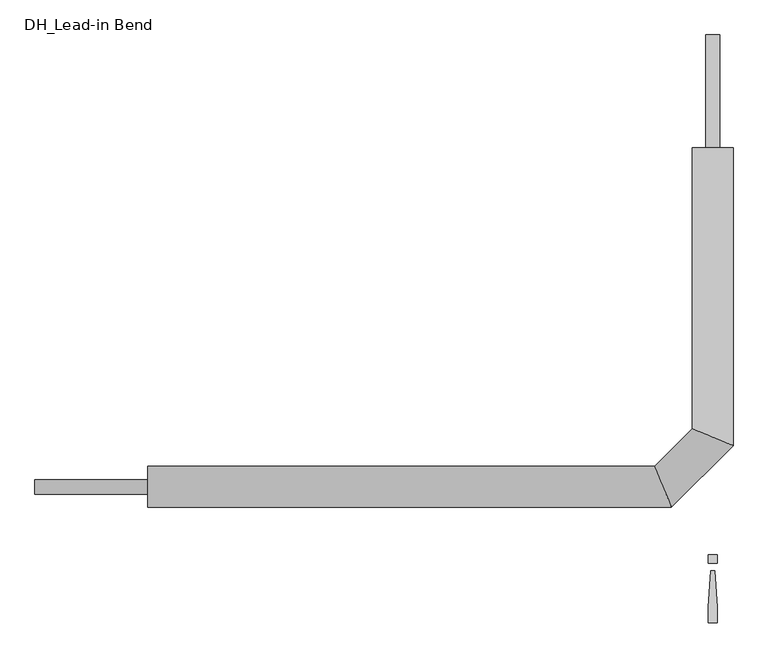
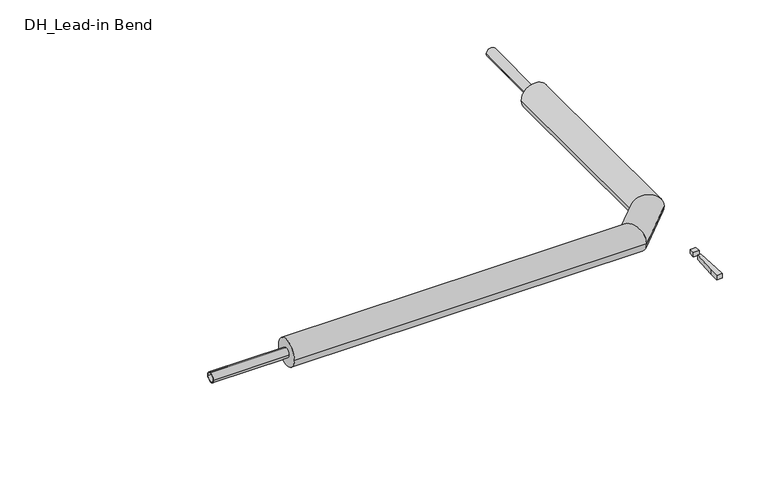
"""IFC4 building model written with IfcOpenShell, lengths in millimetres: pipe fitting geometry, DH_Lead-in Bend : INSULPEX UNO + 11 Heating."""

import ifcopenshell
import ifcopenshell.guid

model = None  # the IFC model being written
_history = None  # IfcOwnerHistory: only IFC2X3 demands one
_inside = {}  # id of a spatial element -> (the spatial element, [elements in it])
_under = {}  # id of a project, library or spatial element -> (it, [spatial elements below it])
_declared = {}  # id of a project -> (the project, [libraries it declares])
_typed = {}  # id of a type object -> (the type object, [elements of that type])
_made_of = {}  # id of a material, layer set ... -> (it, [elements and type objects made of it])


def new_model(schema):
    """Start an empty IFC model of exactly this schema.

    Asked for "IFC4X3", IfcOpenShell would pick the latest addendum, in which some entities
    have other attributes; the version numbers below select the first issue.
    IFC2X3 requires an IfcOwnerHistory on every rooted entity: one is made here for all.
    """
    global model, _history
    if schema == "IFC4X3":
        model = ifcopenshell.file(schema_version=(4, 3, 0, 0))
    else:
        model = ifcopenshell.file(schema=schema)
    _inside.clear()
    _under.clear()
    _declared.clear()
    _typed.clear()
    _made_of.clear()
    _history = None
    if model.schema == "IFC2X3":
        org = make("IfcOrganization", Name="unknown")
        user = make(
            "IfcPersonAndOrganization",
            ThePerson=make("IfcPerson", FamilyName="unknown"),
            TheOrganization=org,
        )
        app = make(
            "IfcApplication",
            ApplicationDeveloper=org,
            Version="unknown",
            ApplicationFullName="unknown",
            ApplicationIdentifier="unknown",
        )
        _history = make(
            "IfcOwnerHistory",
            OwningUser=user,
            OwningApplication=app,
            ChangeAction="ADDED",
            CreationDate=0,
        )
    return model


def make(cls, **values):
    """One entity of the class cls with the attributes given. An attribute that is None is left unset."""
    return model.create_entity(
        cls, **{name: value for name, value in values.items() if value is not None}
    )


def rooted(cls, **values):
    """An entity with a GlobalId (a new one), such as an element, a storey or a relation."""
    return make(cls, GlobalId=ifcopenshell.guid.new(), OwnerHistory=_history, **values)


def si_unit(unit_type, name, prefix=None):
    """IfcSIUnit, for example si_unit("LENGTHUNIT", "METRE", prefix="MILLI")."""
    return make("IfcSIUnit", UnitType=unit_type, Prefix=prefix, Name=name)


def assignment(units):
    """IfcUnitAssignment: the units of a project."""
    return None if units is None else make("IfcUnitAssignment", Units=units)


def point(xyz):
    """IfcCartesianPoint."""
    return None if xyz is None else make("IfcCartesianPoint", Coordinates=xyz)


def direction(xyz):
    """IfcDirection."""
    return None if xyz is None else make("IfcDirection", DirectionRatios=xyz)


def frame(location, z_axis=None, x_axis=None):
    """IfcAxis2Placement3D, a coordinate frame: its origin and axes. An axis left out is left unset."""
    return make(
        "IfcAxis2Placement3D",
        Location=point(location),
        Axis=direction(z_axis),
        RefDirection=direction(x_axis),
    )


def frame_2d(location, x_axis=None):
    """IfcAxis2Placement2D, a coordinate frame in the plane: its origin and x axis."""
    return make(
        "IfcAxis2Placement2D", Location=point(location), RefDirection=direction(x_axis)
    )


def origin():
    """The frame at (0, 0, 0) with its axes left unset."""
    return frame((0.0, 0.0, 0.0))


def origin_with_axes():
    """The frame at (0, 0, 0) with the z axis (0, 0, 1) and the x axis (1, 0, 0) written out."""
    return frame((0.0, 0.0, 0.0), z_axis=(0.0, 0.0, 1.0), x_axis=(1.0, 0.0, 0.0))


def origin_2d():
    """The frame at (0, 0) in the plane with its x axis left unset."""
    return frame_2d((0.0, 0.0))


def place(relative_to, where):
    """IfcLocalPlacement: puts the frame where relative to a parent placement (None: the world)."""
    return make(
        "IfcLocalPlacement", PlacementRelTo=relative_to, RelativePlacement=where
    )


def context(
    kind, dimensions, precision=None, world=None, true_north=None, identifier=None
):
    """IfcGeometricRepresentationContext, for example the 3D "Model" context."""
    return make(
        "IfcGeometricRepresentationContext",
        ContextIdentifier=identifier,
        ContextType=kind,
        CoordinateSpaceDimension=dimensions,
        Precision=precision,
        WorldCoordinateSystem=world,
        TrueNorth=true_north,
    )


def project(units=None, contexts=None):
    """IfcProject with its units and contexts."""
    return rooted(
        "IfcProject",
        Name="project",
        RepresentationContexts=contexts,
        UnitsInContext=assignment(units),
    )


def spatial(cls, under=None, at=None, **own):
    """A site, building, storey or space (cls), placed at a placement, below another one or the project."""
    s = rooted(cls, ObjectPlacement=at, **own)
    if under is not None:
        _under.setdefault(under.id(), (under, []))[1].append(s)
    return s


def polyline(points):
    """IfcPolyline through the points."""
    return make("IfcPolyline", Points=[point(p) for p in points])


def circle_curve(where, radius):
    """IfcCircle in the frame where."""
    return make("IfcCircle", Position=where, Radius=radius)


def ellipse_curve(where, semi_axis1, semi_axis2):
    """IfcEllipse in the frame where."""
    return make(
        "IfcEllipse", Position=where, SemiAxis1=semi_axis1, SemiAxis2=semi_axis2
    )


def trimmed(basis, trim1, trim2, sense, master):
    """IfcTrimmedCurve: the piece of a basis curve between two trims."""
    return make(
        "IfcTrimmedCurve",
        BasisCurve=basis,
        Trim1=trim1,
        Trim2=trim2,
        SenseAgreement=sense,
        MasterRepresentation=master,
    )


def segment(curve, same_sense, transition):
    """IfcCompositeCurveSegment."""
    return make(
        "IfcCompositeCurveSegment",
        Transition=transition,
        SameSense=same_sense,
        ParentCurve=curve,
    )


def composite_curve(segments, self_intersect=None):
    """IfcCompositeCurve: segments joined end to end."""
    return make("IfcCompositeCurve", Segments=segments, SelfIntersect=self_intersect)


def outline(outer, holes=None, kind="AREA"):
    """IfcArbitraryClosedProfileDef: a profile drawn as a closed curve; with holes, ...WithVoids."""
    if holes is None:
        return make("IfcArbitraryClosedProfileDef", ProfileType=kind, OuterCurve=outer)
    return make(
        "IfcArbitraryProfileDefWithVoids",
        ProfileType=kind,
        OuterCurve=outer,
        InnerCurves=holes,
    )


def extrude(swept, where, along, depth):
    """IfcExtrudedAreaSolid: the profile swept, set in the frame where, extruded along a direction by depth."""
    return make(
        "IfcExtrudedAreaSolid",
        SweptArea=swept,
        Position=where,
        ExtrudedDirection=direction(along),
        Depth=depth,
    )


def shape(context_of_items, identifier, shape_type, items):
    """IfcShapeRepresentation: the items that make up one representation, for example the "Body"."""
    return make(
        "IfcShapeRepresentation",
        ContextOfItems=context_of_items,
        RepresentationIdentifier=identifier,
        RepresentationType=shape_type,
        Items=items,
    )


def source(mapping_origin, context_of_items, identifier, shape_type, items):
    """IfcRepresentationMap: a shape defined once, which mapped items show again and again."""
    return make(
        "IfcRepresentationMap",
        MappingOrigin=mapping_origin,
        MappedRepresentation=shape(context_of_items, identifier, shape_type, items),
    )


def transform(
    local_origin,
    x_axis=None,
    y_axis=None,
    z_axis=None,
    scale=None,
    scale2=None,
    scale3=None,
    uniform=True,
):
    """IfcCartesianTransformationOperator3D, or its non-uniform kind. x_axis, y_axis, z_axis: its Axis1, 2, 3."""
    if uniform:
        return make(
            "IfcCartesianTransformationOperator3D",
            Axis1=direction(x_axis),
            Axis2=direction(y_axis),
            LocalOrigin=point(local_origin),
            Scale=scale,
            Axis3=direction(z_axis),
        )
    return make(
        "IfcCartesianTransformationOperator3DnonUniform",
        Axis1=direction(x_axis),
        Axis2=direction(y_axis),
        LocalOrigin=point(local_origin),
        Scale=scale,
        Axis3=direction(z_axis),
        Scale2=scale2,
        Scale3=scale3,
    )


def mapped(mapping_source, mapping_target):
    """IfcMappedItem: shows the shape of a source again, moved by a transform."""
    return make(
        "IfcMappedItem", MappingSource=mapping_source, MappingTarget=mapping_target
    )


def made_of(thing, what):
    """Note that an element or type object is made of a material, layer set ...; save() writes the relation."""
    if what is not None:
        _made_of.setdefault(what.id(), (what, []))[1].append(thing)
    return thing


def element(
    cls,
    number,
    at=None,
    inside=None,
    cuts=None,
    type_object=None,
    material=None,
    context=None,
    identifier="Body",
    shape_type=None,
    held_by="IfcProductDefinitionShape",
    body=None,
    shapes=None,
    **own,
):
    """One element of the class cls, such as IfcWall. Its Tag is "e" and its number.

    at: its placement. inside: the storey or other place that contains it. cuts: it is an
    opening in that element (IfcRelVoidsElement). A single representation is given by context,
    identifier, shape_type and body (its items); several are given by shapes. held_by: the class
    of the entity that holds the representations. save() writes the other relations.
    """
    e = rooted(cls, Tag="e%d" % number, ObjectPlacement=at, **own)
    if body is not None:
        shapes = [shape(context, identifier, shape_type, body)]
    if shapes is not None:
        e.Representation = make(held_by, Representations=shapes)
    if inside is not None:
        _inside.setdefault(inside.id(), (inside, []))[1].append(e)
    if cuts is not None:
        rooted(
            "IfcRelVoidsElement", RelatingBuildingElement=cuts, RelatedOpeningElement=e
        )
    if type_object is not None:
        _typed.setdefault(type_object.id(), (type_object, []))[1].append(e)
    return made_of(e, material)


def aggregate(whole, parts):
    """IfcRelAggregates: a whole, such as a stair, and the parts it consists of."""
    return rooted("IfcRelAggregates", RelatingObject=whole, RelatedObjects=parts)


def save(model, path):
    """Write the relations noted so far, then the file.

    IfcRelAggregates (storeys below a building ...), IfcRelContainedInSpatialStructure (elements
    in a storey), IfcRelDefinesByType, IfcRelAssociatesMaterial and IfcRelDeclares: one each for
    every whole, place, type object, material and project.
    """
    for whole, parts in _under.values():
        aggregate(whole, parts)
    for where, things in _inside.values():
        rooted(
            "IfcRelContainedInSpatialStructure",
            RelatedElements=things,
            RelatingStructure=where,
        )
    for kind, things in _typed.values():
        rooted("IfcRelDefinesByType", RelatedObjects=things, RelatingType=kind)
    for what, things in _made_of.values():
        rooted("IfcRelAssociatesMaterial", RelatedObjects=things, RelatingMaterial=what)
    for by, libraries in _declared.values():
        rooted("IfcRelDeclares", RelatingContext=by, RelatedDefinitions=libraries)
    model.write(path)


def plane_surface(at):
    """IfcPlane: the flat surface through the origin of the frame at, square to its z axis."""
    return make("IfcPlane", Position=at)


def cylinder_surface(at, radius):
    """IfcCylindricalSurface: all points at the distance radius from the z axis of the frame at."""
    return make("IfcCylindricalSurface", Position=at, Radius=radius)


def advanced_brep(points, edges, surfaces, faces):
    """IfcAdvancedBrep: a solid bounded by faces that lie on surfaces and meet in shared edges.

    An edge is (start, end): straight between two places in points (the first is 0);
    or (start, end, curve); or (start, end, curve, False) where it runs against its curve.
    A face is (place in surfaces, loops), or (place, loops, False) where it looks against
    its surface's normal. A loop lists edges by number (the first is 1), with a minus sign
    where the edge is run from its end to its start. The first loop is the outer one.
    """
    corners = [point(p) for p in points]
    vertices = [make("IfcVertexPoint", VertexGeometry=c) for c in corners]
    made = []
    for start, end, *more in edges:
        made.append(
            make(
                "IfcEdgeCurve",
                EdgeStart=vertices[start],
                EdgeEnd=vertices[end],
                EdgeGeometry=more[0] if more else make("IfcPolyline", Points=[corners[start], corners[end]]),
                SameSense=more[1] if len(more) > 1 else True,
            )
        )
    hull = []
    for where, loops, *sense in faces:
        bounds = []
        for j, loop in enumerate(loops):
            ring = [make("IfcOrientedEdge", EdgeElement=made[abs(k) - 1], Orientation=k > 0) for k in loop]
            bounds.append(
                make(
                    "IfcFaceOuterBound" if j == 0 else "IfcFaceBound",
                    Bound=make("IfcEdgeLoop", EdgeList=ring),
                    Orientation=True,
                )
            )
        hull.append(make("IfcAdvancedFace", Bounds=bounds, FaceSurface=surfaces[where], SameSense=sense[0] if sense else True))
    return make("IfcAdvancedBrep", Outer=make("IfcClosedShell", CfsFaces=hull))


def dh_lead_in_bend_2175eca0(model_context):
    return source(origin(), model_context, "Body", "SolidModel", [
        advanced_brep(
        [(-1250.0, -45.0, 0.0), (-1250.0, 45.0, 0.0), (-91.3603897, -45.0, 0.0), (-128.6396103, 45.0, 0.0), (45.0, 750.0, 0.0), (-45.0, 750.0, 0.0), (-45.0, 128.6396103, 0.0), (45.0, 91.3603897, 0.0)],
        [
            (0, 1, circle_curve(frame((-1250.0, 0.0, 0.0), z_axis=(-1.0, 0.0, 0.0), x_axis=(0.0, 1.0, 0.0)), 45.0)),
            (1, 0, circle_curve(frame((-1250.0, 0.0, 0.0), z_axis=(-1.0, 0.0, 0.0), x_axis=(0.0, 1.0, 0.0)), 45.0)),
            (0, 2),
            (2, 3, ellipse_curve(frame((-110.0, 0.0, 0.0), z_axis=(-0.9238795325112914, -0.3826834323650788, 0.0), x_axis=(-0.38268343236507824, 0.9238795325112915, 0.0)), 48.707649, 45.0)),
            (3, 1),
            (3, 2, ellipse_curve(frame((-110.0, 0.0, 0.0), z_axis=(-0.9238795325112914, -0.3826834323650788, 0.0), x_axis=(-0.38268343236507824, 0.9238795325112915, 0.0)), 48.707649, 45.0)),
            (4, 5, circle_curve(frame((0.0, 750.0, 0.0), z_axis=(0.0, 1.0, 0.0), x_axis=(-1.0, 0.0, 0.0)), 45.0)),
            (5, 4, circle_curve(frame((0.0, 750.0, 0.0), z_axis=(0.0, 1.0, 0.0), x_axis=(-1.0, 0.0, 0.0)), 45.0)),
            (6, 7, ellipse_curve(frame((0.0, 110.0, 0.0), z_axis=(0.38268343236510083, 0.9238795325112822, 0.0), x_axis=(0.9238795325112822, -0.3826834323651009, 0.0)), 48.707649, 45.0)),
            (7, 4),
            (5, 6),
            (7, 6, ellipse_curve(frame((0.0, 110.0, 0.0), z_axis=(0.38268343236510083, 0.9238795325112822, 0.0), x_axis=(0.9238795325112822, -0.3826834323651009, 0.0)), 48.707649, 45.0)),
            (2, 7),
            (6, 3),
        ],
        [
            plane_surface(frame((-1250.0, 0.0, 0.0), z_axis=(-1.0, 0.0, 0.0), x_axis=(0.0, 0.0, 1.0))),
            cylinder_surface(frame((-1250.0, 0.0, 0.0), z_axis=(-1.0, 0.0, 0.0), x_axis=(0.0, 1.0, 0.0)), 45.0),
            plane_surface(frame((0.0, 750.0, 0.0), z_axis=(0.0, 1.0, 0.0), x_axis=(0.0, 0.0, 1.0))),
            cylinder_surface(frame((0.0, 110.0, 0.0), z_axis=(0.0, -1.0, 0.0), x_axis=(-1.0, 0.0, 0.0)), 45.0),
            cylinder_surface(frame((-110.0, 0.0, 0.0), z_axis=(-0.7071067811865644, -0.7071067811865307, 0.0), x_axis=(-0.7071067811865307, 0.7071067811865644, 0.0)), 45.0),
        ],
        [
            (0, [[1, 2]]),
            (1, [[-1, 3, 4, 5]]),
            (1, [[-2, -5, 6, -3]]),
            (2, [[7, 8]]),
            (3, [[9, 10, -8, 11]]),
            (3, [[12, -11, -7, -10]]),
            (4, [[-4, 13, -9, 14]]),
            (4, [[-6, -14, -12, -13]]),
        ],
    ),
        extrude(outline(polyline([(4.7088895, -185.3166715), (9.4177791, -266.6553807), (9.4177791, -300.6844652), (-9.4177791, -300.6844652), (-9.4177791, -266.6553807), (-4.7088895, -185.3166715), (4.7088895, -185.3166715)])), origin_with_axes(), (0.0, 0.0, 1.0), 15.0),
        extrude(outline(polyline([(9.4177791, -150.0), (9.4177791, -168.8355582), (-9.4177791, -168.8355582), (-9.4177791, -150.0), (9.4177791, -150.0)])), origin_with_axes(), (0.0, 0.0, 1.0), 15.0),
        extrude(outline(composite_curve([segment(trimmed(circle_curve(origin_2d(), 16.0), [point((-16.0, 0.0))], [point((16.0, 0.0))], False, "CARTESIAN"), True, "CONTINUOUS"), segment(trimmed(circle_curve(origin_2d(), 16.0), [point((16.0, 0.0))], [point((-16.0, 0.0))], False, "CARTESIAN"), True, "CONTINUOUS")], self_intersect=False), holes=[composite_curve([segment(trimmed(circle_curve(origin_2d(), 13.1), [point((-13.1, 0.0))], [point((13.1, 0.0))], True, "CARTESIAN"), True, "CONTINUOUS"), segment(trimmed(circle_curve(origin_2d(), 13.1), [point((13.1, 0.0))], [point((-13.1, 0.0))], True, "CARTESIAN"), True, "CONTINUOUS")], self_intersect=False)]), frame((-1500.0, 0.0, 0.0), z_axis=(1.0, 0.0, 0.0), x_axis=(0.0, 1.0, 0.0)), (0.0, 0.0, 1.0), 250.0),
        extrude(outline(composite_curve([segment(trimmed(circle_curve(origin_2d(), 16.0), [point((0.0, 16.0))], [point((0.0, -16.0))], False, "CARTESIAN"), True, "CONTINUOUS"), segment(trimmed(circle_curve(origin_2d(), 16.0), [point((0.0, -16.0))], [point((0.0, 16.0))], False, "CARTESIAN"), True, "CONTINUOUS")], self_intersect=False), holes=[composite_curve([segment(trimmed(circle_curve(origin_2d(), 13.1), [point((0.0, 13.1))], [point((0.0, -13.1))], True, "CARTESIAN"), True, "CONTINUOUS"), segment(trimmed(circle_curve(origin_2d(), 13.1), [point((0.0, -13.1))], [point((0.0, 13.1))], True, "CARTESIAN"), True, "CONTINUOUS")], self_intersect=False)]), frame((0.0, 750.0, 0.0), z_axis=(0.0, 1.0, 0.0), x_axis=(0.0, 0.0, 1.0)), (0.0, 0.0, 1.0), 250.0),
    ])


if __name__ == "__main__":
    model = new_model("IFC4")
    model_context = context("Model", 3, world=origin())
    ifc_project = project(units=[si_unit("LENGTHUNIT", "METRE", prefix="MILLI")], contexts=[model_context])
    site = spatial("IfcSite", under=ifc_project)
    building = spatial("IfcBuilding", under=site)
    placement = place(None, origin())
    dh_lead_in_bend_shape = dh_lead_in_bend_2175eca0(model_context)
    element("IfcPipeFitting", 1, ObjectType="DH_Lead-in Bend : INSULPEX UNO + 11 Heating", at=placement, inside=building, context=model_context, shape_type="MappedRepresentation", body=[
        mapped(dh_lead_in_bend_shape, transform((0.0, 0.0, 0.0), x_axis=(1.0, 0.0, 0.0), y_axis=(0.0, 1.0, 0.0), z_axis=(0.0, 0.0, 1.0))),
    ])
    save(model, "model.ifc")
